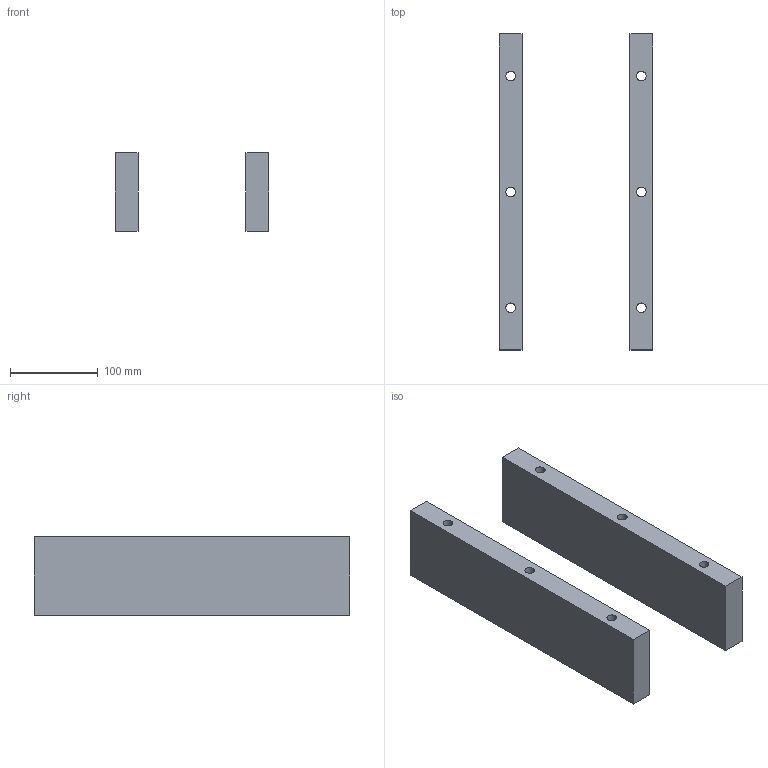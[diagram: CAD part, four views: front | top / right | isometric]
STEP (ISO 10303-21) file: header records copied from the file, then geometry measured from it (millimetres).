
FILE_DESCRIPTION (( 'STEP AP214' ), '1' );
FILE_NAME ('ESP-175x360x26.STEP', '2020-11-02T14:33:09', ( '' ), ( '' ), 'SwSTEP 2.0', 'SolidWorks 2018', '' );
FILE_SCHEMA (( 'AUTOMOTIVE_DESIGN' ));
Length unit declared in the file: millimetre
Products named in the file (1): ESP-175x360x26
Bounding box: 175 x 360 x 90 mm (x, y, z)
Volume: 1633482.1 mm3; surface area: 193920.7 mm2
Topology: 2 solids, 2 shells, 24 faces, 60 edges, 40 vertices
Faces by surface type: cylinder 12, plane 12
Entity records: 795 total; most frequent: DIRECTION 134, CARTESIAN_POINT 125, ORIENTED_EDGE 120, EDGE_CURVE 60, AXIS2_PLACEMENT_3D 49, VERTEX_POINT 40, VECTOR 36, EDGE_LOOP 36
